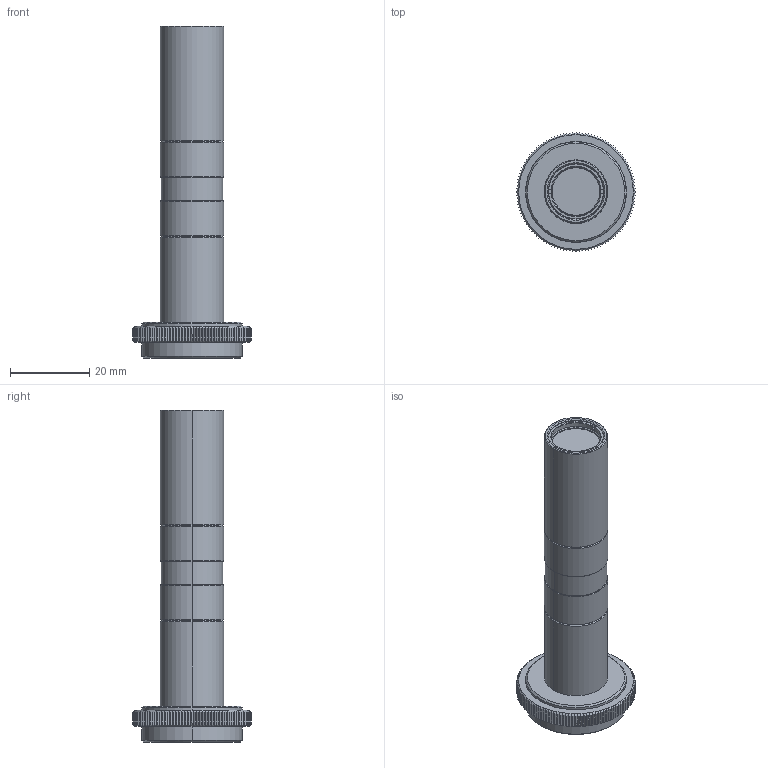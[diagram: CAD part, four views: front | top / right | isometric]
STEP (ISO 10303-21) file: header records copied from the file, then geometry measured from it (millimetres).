
FILE_DESCRIPTION (( 'STEP AP203' ), '1' );
FILE_NAME ('MML1-ST65_A03481A0100101A-001.STEP', '2013-11-26T10:03:18', ( 'SCHOTT' ), ( 'SCHOTT' ), 'SwSTEP 2.0', 'SolidWorks 2011', '' );
FILE_SCHEMA (( 'CONFIG_CONTROL_DESIGN' ));
Length unit declared in the file: millimetre
Products named in the file (1): MML1-ST65_A03481A0100101A-001
Bounding box: 30 x 30 x 83.97 mm (x, y, z)
Volume: 15605.2 mm3; surface area: 7220.7 mm2
Topology: 1 solids, 1 shells, 322 faces, 894 edges, 584 vertices
Faces by surface type: plane 260, cone 36, cylinder 26
Entity records: 10687 total; most frequent: CARTESIAN_POINT 3265, ORIENTED_EDGE 1788, DIRECTION 1144, EDGE_CURVE 894, VERTEX_POINT 584, B_SPLINE_CURVE_WITH_KNOTS 488, AXIS2_PLACEMENT_3D 415, EDGE_LOOP 332
